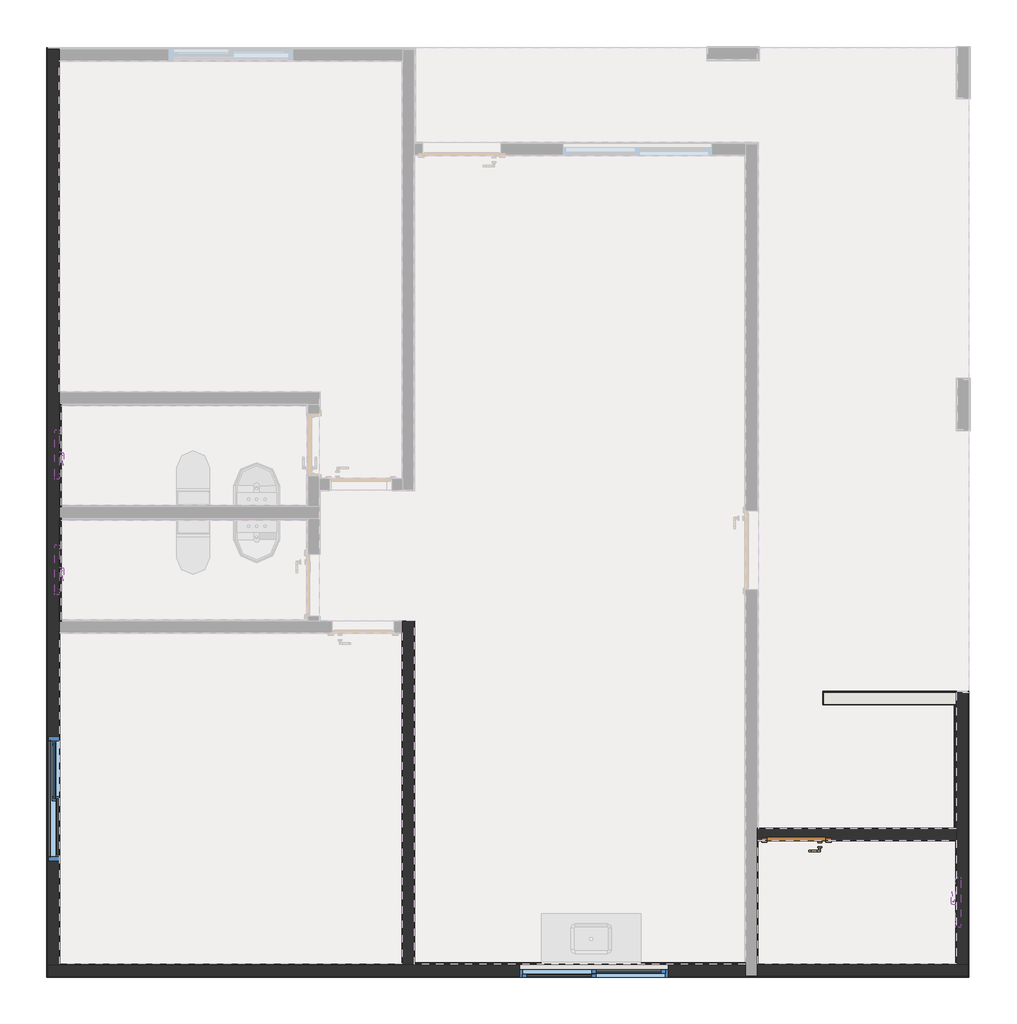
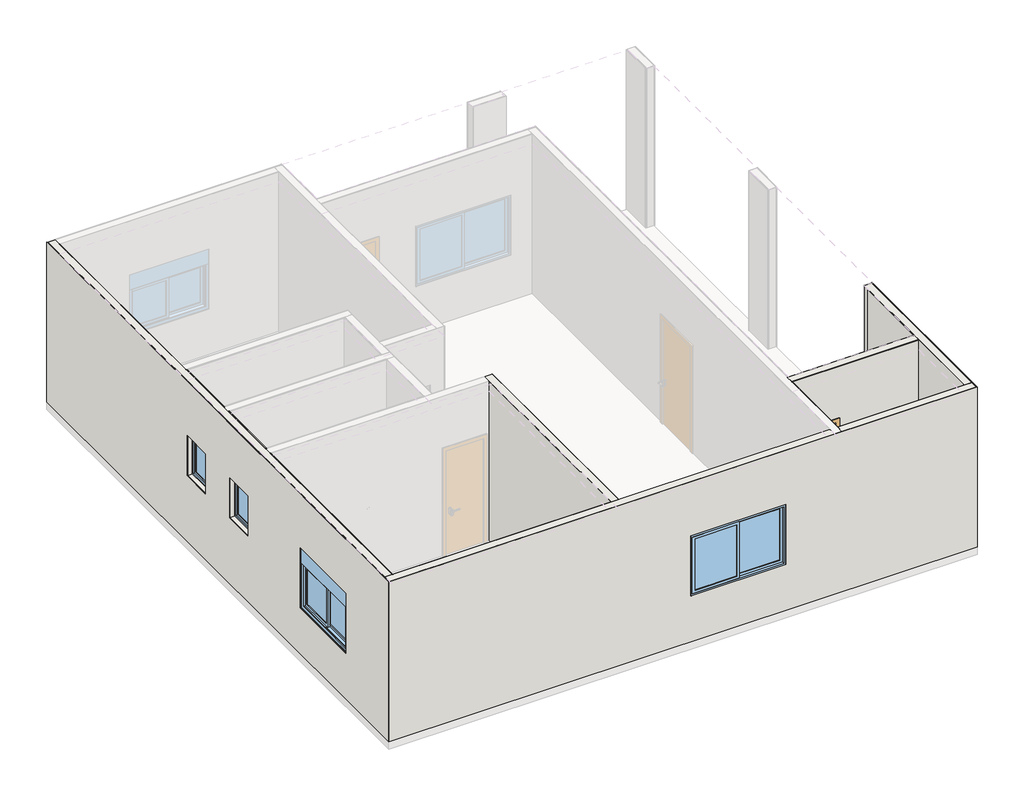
# One storey, part 1 of 3: 27 walls, 5 windows, 1 door.
"""IFC4 building model written with IfcOpenShell, lengths in millimetres."""

from ifc_helpers import new_model, si_unit, frame, origin, origin_with_axes, place, context, project, spatial, polyline, outline, extrude, faceted_brep, transform, mapped, element, save
from components import porta_de_madeira_interna_70_x_210_porta_de_madeira_interna_a3714ee7, window_150x120_d34a449e, window_180x120_4d49b7f3, window_60x80_d31b0025, window_60x80_c8c25e1d

model = new_model("IFC4")

# Units and contexts
model_context = context("Model", 3, world=origin())
ifc_project = project(units=[si_unit("LENGTHUNIT", "METRE", prefix="MILLI")], contexts=[model_context])

# Site, building, storey
site = spatial("IfcSite", under=ifc_project)
building = spatial("IfcBuilding", under=site)
storey = spatial("IfcBuildingStorey", under=building, Name="Térreo", Elevation=0.0)

# Door
placement = place(None, origin())
porta_de_madeira_interna_70_x_210_porta_de_madeira_interna_shape = porta_de_madeira_interna_70_x_210_porta_de_madeira_interna_a3714ee7(model_context)
element("IfcDoor", 1, ObjectType="Porta de Madeira Interna 70 x 210 : Porta de Madeira Interna 70 x 210", at=placement, inside=storey, context=model_context, shape_type="MappedRepresentation", body=[
    mapped(porta_de_madeira_interna_70_x_210_porta_de_madeira_interna_shape, transform((40760.9970535, 5681.8245833, 0.0), x_axis=(-1.0, 0.0, 0.0), y_axis=(0.0, -1.0, 0.0), z_axis=(0.0, 0.0, 1.0))),
])

# Walls
element("IfcWall", 2, ObjectType="Alvenaria Estrutural", at=placement, inside=storey, context=model_context, shape_type="Brep", body=[
    faceted_brep([(40145.9970535, 4187.9995833, 0.0), (36151.9970535, 4187.9995833, 0.0), (36145.9970535, 4187.9995833, 0.0), (36005.9970535, 4187.9995833, 0.0), (31871.9970535, 4187.9995833, 0.0), (31865.9970535, 4187.9995833, 0.0), (31725.9970535, 4187.9995833, 0.0), (31725.9970535, 4187.9995833, 3200.0), (31865.9970535, 4187.9995833, 3200.0), (31871.9970535, 4187.9995833, 3200.0), (36005.9970535, 4187.9995833, 3200.0), (36145.9970535, 4187.9995833, 3200.0), (36151.9970535, 4187.9995833, 3200.0), (40139.9970535, 4187.9995833, 3200.0), (40145.9970535, 4187.9995833, 3200.0), (40145.9970535, 4187.9995833, 3000.0), (40145.9970535, 4187.9995833, 10.0), (37415.9970535, 4187.9995833, 920.0), (39215.9970535, 4187.9995833, 920.0), (39215.9970535, 4187.9995833, 2120.0), (37415.9970535, 4187.9995833, 2120.0), (40145.9970535, 4047.9995833, 0.0), (40145.9970535, 4047.9995833, 3200.0), (31725.9970535, 4047.9995833, 3200.0), (31725.9970535, 4047.9995833, 0.0), (37415.9970535, 4047.9995833, 920.0), (37415.9970535, 4047.9995833, 2120.0), (39215.9970535, 4047.9995833, 2120.0), (39215.9970535, 4047.9995833, 920.0)], [[[0, 1, 2, 3, 4, 5, 6, 7, 8, 9, 10, 11, 12, 13, 14, 15, 16], [17, 18, 19, 20]], [[21, 22, 23, 24], [25, 26, 27, 28]], [[1, 0, 21, 24, 6, 5, 4, 3, 2]], [[8, 7, 23, 22, 14, 13, 12, 11, 10, 9]], [[15, 14, 22, 21, 0, 16]], [[7, 6, 24, 23]], [[17, 20, 26, 25]], [[20, 19, 27, 26]], [[19, 18, 28, 27]], [[18, 17, 25, 28]]]),
])
element("IfcWall", 3, ObjectType="Alvenaria Estrutural", at=placement, inside=storey, context=model_context, shape_type="Brep", body=[
    faceted_brep([(31865.9970535, 4187.9995833, 0.0), (31865.9970535, 4193.9995833, 0.0), (31865.9970535, 8181.9995833, 0.0), (31865.9970535, 8187.9995833, 0.0), (31865.9970535, 8327.9995833, 0.0), (31865.9970535, 8347.9995833, 0.0), (31865.9970535, 9547.9995833, 0.0), (31865.9970535, 9567.9995833, 0.0), (31865.9970535, 9707.9995833, 0.0), (31865.9970535, 9727.9995833, 0.0), (31865.9970535, 10947.9995833, 0.0), (31865.9970535, 11087.9995833, 0.0), (31865.9970535, 11093.9995833, 0.0), (31865.9970535, 15081.9995833, 0.0), (31865.9970535, 15087.9995833, 0.0), (31865.9970535, 15227.9995833, 0.0), (31865.9970535, 15227.9995833, 3200.0), (31865.9970535, 15087.9995833, 3200.0), (31865.9970535, 15081.9995833, 3200.0), (31865.9970535, 11093.9995833, 3200.0), (31865.9970535, 11087.9995833, 3200.0), (31865.9970535, 10947.9995833, 3200.0), (31865.9970535, 9727.9995833, 3200.0), (31865.9970535, 9707.9995833, 3200.0), (31865.9970535, 9567.9995833, 3200.0), (31865.9970535, 9547.9995833, 3200.0), (31865.9970535, 8347.9995833, 3200.0), (31865.9970535, 8327.9995833, 3200.0), (31865.9970535, 8187.9995833, 3200.0), (31865.9970535, 8181.9995833, 3200.0), (31865.9970535, 4193.9995833, 3200.0), (31865.9970535, 4187.9995833, 3200.0), (31865.9970535, 5437.9995833, 920.0), (31865.9970535, 5437.9995833, 2120.0), (31865.9970535, 6937.9995833, 2120.0), (31865.9970535, 6937.9995833, 920.0), (31865.9970535, 8647.9995833, 1320.0), (31865.9970535, 8647.9995833, 2120.0), (31865.9970535, 9247.9995833, 2120.0), (31865.9970535, 9247.9995833, 1320.0), (31865.9970535, 10037.9995833, 1320.0), (31865.9970535, 10037.9995833, 2120.0), (31865.9970535, 10637.9995833, 2120.0), (31865.9970535, 10637.9995833, 1320.0), (31725.9970535, 4187.9995833, 0.0), (31725.9970535, 4187.9995833, 3200.0), (31725.9970535, 15227.9995833, 3200.0), (31725.9970535, 15227.9995833, 0.0), (31725.9970535, 5437.9995833, 920.0), (31725.9970535, 6937.9995833, 920.0), (31725.9970535, 6937.9995833, 2120.0), (31725.9970535, 5437.9995833, 2120.0), (31725.9970535, 8647.9995833, 1320.0), (31725.9970535, 9247.9995833, 1320.0), (31725.9970535, 9247.9995833, 2120.0), (31725.9970535, 8647.9995833, 2120.0), (31725.9970535, 10037.9995833, 1320.0), (31725.9970535, 10637.9995833, 1320.0), (31725.9970535, 10637.9995833, 2120.0), (31725.9970535, 10037.9995833, 2120.0)], [[[0, 1, 2, 3, 4, 5, 6, 7, 8, 9, 10, 11, 12, 13, 14, 15, 16, 17, 18, 19, 20, 21, 22, 23, 24, 25, 26, 27, 28, 29, 30, 31], [32, 33, 34, 35], [36, 37, 38, 39], [40, 41, 42, 43]], [[44, 45, 46, 47], [48, 49, 50, 51], [52, 53, 54, 55], [56, 57, 58, 59]], [[1, 0, 44, 47, 15, 14, 13, 12, 11, 10, 9, 8, 7, 6, 5, 4, 3, 2]], [[17, 16, 46, 45, 31, 30, 29, 28, 27, 26, 25, 24, 23, 22, 21, 20, 19, 18]], [[0, 31, 45, 44]], [[16, 15, 47, 46]], [[41, 40, 56, 59]], [[42, 41, 59, 58]], [[43, 42, 58, 57]], [[40, 43, 57, 56]], [[37, 36, 52, 55]], [[38, 37, 55, 54]], [[39, 38, 54, 53]], [[36, 39, 53, 52]], [[33, 32, 48, 51]], [[34, 33, 51, 50]], [[35, 34, 50, 49]], [[32, 35, 49, 48]]]),
])
element("IfcWall", 4, ObjectType="Alvenaria Estrutural", at=placement, inside=storey, context=model_context, shape_type="Brep", body=[
    faceted_brep([(36145.9970535, 4187.9995833, 0.0), (36145.9970535, 8327.9995833, 0.0), (36145.9970535, 8327.9995833, 3200.0), (36145.9970535, 4187.9995833, 3200.0), (36005.9970535, 4187.9995833, 0.0), (36005.9970535, 4187.9995833, 3200.0), (36005.9970535, 4193.9995833, 3200.0), (36005.9970535, 8181.9995833, 3200.0), (36005.9970535, 8187.9995833, 3200.0), (36005.9970535, 8327.9995833, 3200.0), (36005.9970535, 8327.9995833, 0.0), (36005.9970535, 8187.9995833, 0.0), (36005.9970535, 8181.9995833, 0.0), (36005.9970535, 4193.9995833, 0.0)], [[[0, 1, 2, 3]], [[4, 5, 6, 7, 8, 9, 10, 11, 12, 13]], [[1, 0, 4, 13, 12, 11, 10]], [[3, 2, 9, 8, 7, 6, 5]], [[0, 3, 5, 4]], [[2, 1, 10, 9]]]),
])
element("IfcWall", 5, ObjectType="Alvenaria Estrutural", at=placement, inside=storey, context=model_context, shape_type="Brep", body=[
    faceted_brep([(40285.9970535, 4047.9995833, 0.0), (42825.9970535, 4047.9995833, 0.0), (42825.9970535, 4047.9995833, 3200.0), (40285.9970535, 4047.9995833, 3200.0), (40285.9970535, 4187.9995833, 0.0), (40285.9970535, 4187.9995833, 3200.0), (40291.9970535, 4187.9995833, 3200.0), (42679.9970535, 4187.9995833, 3200.0), (42685.9970535, 4187.9995833, 3200.0), (42825.9970535, 4187.9995833, 3200.0), (42825.9970535, 4187.9995833, 0.0), (42685.9970535, 4187.9995833, 0.0), (42679.9970535, 4187.9995833, 0.0), (40291.9970535, 4187.9995833, 0.0)], [[[0, 1, 2, 3]], [[4, 5, 6, 7, 8, 9, 10, 11, 12, 13]], [[1, 0, 4, 13, 12, 11, 10]], [[3, 2, 9, 8, 7, 6, 5]], [[0, 3, 5, 4]], [[2, 1, 10, 9]]]),
])
element("IfcWall", 6, ObjectType="Alvenaria Estrutural", at=placement, inside=storey, context=model_context, shape_type="Brep", body=[
    faceted_brep([(42825.9970535, 4187.9995833, 0.0), (42825.9970535, 7467.9995833, 0.0), (42825.9970535, 7467.9995833, 1200.0), (42825.9970535, 7467.9995833, 3200.0), (42825.9970535, 4187.9995833, 3200.0), (42825.9970535, 4187.9995833, 1200.0), (42825.9970535, 5237.9995833, 1320.0), (42825.9970535, 4637.9995833, 1320.0), (42825.9970535, 4637.9995833, 2120.0), (42825.9970535, 5237.9995833, 2120.0), (42685.9970535, 4187.9995833, 0.0), (42685.9970535, 4193.9995833, 0.0), (42685.9970535, 5681.9995833, 0.0), (42685.9970535, 5687.9995833, 0.0), (42685.9970535, 5827.9995833, 0.0), (42685.9970535, 5833.9995833, 0.0), (42685.9970535, 7327.9995833, 0.0), (42685.9970535, 7467.9995833, 0.0), (42685.9970535, 7467.9995833, 1200.0), (42685.9970535, 7467.9995833, 3200.0), (42685.9970535, 4187.9995833, 3200.0), (42685.9970535, 4187.9995833, 1200.0), (42685.9970535, 4193.9995833, 3200.0), (42685.9970535, 5681.9995833, 3200.0), (42685.9970535, 5687.9995833, 3200.0), (42685.9970535, 5827.9995833, 3200.0), (42685.9970535, 5833.9995833, 3200.0), (42685.9970535, 7327.9995833, 3200.0), (42685.9970535, 4637.9995833, 1320.0), (42685.9970535, 5237.9995833, 1320.0), (42685.9970535, 5237.9995833, 2120.0), (42685.9970535, 4637.9995833, 2120.0)], [[[0, 1, 2, 3, 4, 5], [6, 7, 8, 9]], [[1, 0, 10, 11, 12, 13, 14, 15, 16, 17]], [[2, 1, 17, 18, 19, 3]], [[0, 5, 4, 20, 21, 10]], [[10, 21, 20, 22, 23, 24, 25, 26, 27, 19, 18, 17, 16, 15, 14, 13, 12, 11], [28, 29, 30, 31]], [[7, 6, 29, 28]], [[8, 7, 28, 31]], [[9, 8, 31, 30]], [[6, 9, 30, 29]], [[4, 3, 19, 27, 26, 25, 24, 23, 22, 20]]]),
])
element("IfcWall", 7, ObjectType="Alvenaria Estrutural", at=placement, inside=storey, context=model_context, shape_type="Brep", body=[
    faceted_brep([(42685.9970535, 5827.9995833, 0.0), (42665.9970535, 5827.9995833, 0.0), (40285.9970535, 5827.9995833, 0.0), (40285.9970535, 5827.9995833, 3200.0), (42665.9970535, 5827.9995833, 3200.0), (42685.9970535, 5827.9995833, 3200.0), (42685.9970535, 5687.9995833, 0.0), (42685.9970535, 5687.9995833, 3200.0), (42679.9970535, 5687.9995833, 3200.0), (40291.9970535, 5687.9995833, 3200.0), (40285.9970535, 5687.9995833, 3200.0), (40285.9970535, 5687.9995833, 0.0), (40291.9970535, 5687.9995833, 0.0), (42679.9970535, 5687.9995833, 0.0)], [[[0, 1, 2, 3, 4, 5]], [[6, 7, 8, 9, 10, 11, 12, 13]], [[1, 0, 6, 13, 12, 11, 2]], [[4, 3, 10, 9, 8, 7, 5]], [[0, 5, 7, 6]], [[3, 2, 11, 10]]]),
])
element("IfcWall", 8, ObjectType="Alvenaria Estrutural", at=placement, inside=storey, context=model_context, shape_type="Brep", body=[
    faceted_brep([(42685.9970535, 7467.9995833, 0.0), (41091.9970535, 7467.9995833, 0.0), (41091.9970535, 7467.9995833, 1200.0), (42685.9970535, 7467.9995833, 1200.0), (42685.9970535, 7327.9995833, 0.0), (42685.9970535, 7327.9995833, 1200.0), (41091.9970535, 7327.9995833, 1200.0), (41091.9970535, 7327.9995833, 0.0), (42665.9970535, 7327.9995833, 0.0)], [[[0, 1, 2, 3]], [[4, 5, 6, 7, 8]], [[1, 0, 4, 8, 7]], [[2, 1, 7, 6]], [[3, 2, 6, 5]], [[0, 3, 5, 4]]]),
])
element("IfcWall", 9, ObjectType="Azulejo", at=placement, inside=storey, context=model_context, shape_type="SweptSolid", body=[
    extrude(outline(polyline([(9567.9995833, 0.0), (8327.9995833, 0.0), (8327.9995833, 3200.0), (9567.9995833, 3200.0), (9567.9995833, 0.0)]), holes=[polyline([(8647.9995833, 2120.0), (8647.9995833, 1320.0), (9247.9995833, 1320.0), (9247.9995833, 2120.0), (8647.9995833, 2120.0)])]), frame((31875.9970535, 0.0, 0.0), z_axis=(1.0, 0.0, 0.0), x_axis=(0.0, 1.0, 0.0)), (0.0, 0.0, 1.0), 10.0),
    extrude(outline(polyline([(9567.9995833, 0.0), (8327.9995833, 0.0), (8327.9995833, 3200.0), (9567.9995833, 3200.0), (9567.9995833, 0.0)]), holes=[polyline([(8647.9995833, 1320.0), (9247.9995833, 1320.0), (9247.9995833, 2120.0), (8647.9995833, 2120.0), (8647.9995833, 1320.0)])]), frame((31865.9970535, 0.0, 0.0), z_axis=(1.0, 0.0, 0.0), x_axis=(0.0, 1.0, 0.0)), (0.0, 0.0, 1.0), 10.0),
])
element("IfcWall", 10, ObjectType="Azulejo", at=placement, inside=storey, context=model_context, shape_type="SolidModel", body=[
    faceted_brep([(31885.9970535, 10927.9995833, 0.0), (31885.9970535, 9707.9995833, 0.0), (31875.9970535, 9707.9995833, 0.0), (31875.9970535, 10937.9995833, 0.0), (31885.9970535, 10937.9995833, 0.0), (31875.9970535, 9707.9995833, 3200.0), (31885.9970535, 9707.9995833, 3200.0), (31885.9970535, 10927.9995833, 3200.0), (31885.9970535, 10937.9995833, 3200.0), (31875.9970535, 10937.9995833, 3200.0), (31885.9970535, 10037.9995833, 2120.0), (31885.9970535, 10037.9995833, 1320.0), (31875.9970535, 10037.9995833, 1320.0), (31875.9970535, 10037.9995833, 2120.0), (31875.9970535, 10637.9995833, 2120.0), (31885.9970535, 10637.9995833, 2120.0), (31875.9970535, 10637.9995833, 1320.0), (31885.9970535, 10637.9995833, 1320.0)], [[[0, 1, 2, 3, 4]], [[5, 6, 7, 8, 9]], [[2, 1, 6, 5]], [[10, 11, 12, 13]], [[10, 13, 14, 15]], [[15, 14, 16, 17]], [[12, 11, 17, 16]], [[2, 5, 9, 3], [13, 12, 16, 14]], [[1, 0, 4, 8, 7, 6], [11, 10, 15, 17]], [[4, 3, 9, 8]]]),
    extrude(outline(polyline([(10947.9995833, 0.0), (9707.9995833, 0.0), (9707.9995833, 3200.0), (10947.9995833, 3200.0), (10947.9995833, 0.0)]), holes=[polyline([(10037.9995833, 1320.0), (10637.9995833, 1320.0), (10637.9995833, 2120.0), (10037.9995833, 2120.0), (10037.9995833, 1320.0)])]), frame((31865.9970535, 0.0, 0.0), z_axis=(1.0, 0.0, 0.0), x_axis=(0.0, 1.0, 0.0)), (0.0, 0.0, 1.0), 10.0),
])
element("IfcWall", 11, ObjectType="Azulejo", at=placement, inside=storey, context=model_context, shape_type="Brep", body=[
    faceted_brep([(42675.9970535, 5827.9995833, 0.0), (42665.9970535, 5827.9995833, 0.0), (42665.9970535, 7321.9995833, 0.0), (42675.9970535, 7321.9995833, 0.0), (42675.9970535, 5827.9995833, 1200.0), (42675.9970535, 5827.9995833, 3200.0), (42665.9970535, 5827.9995833, 3200.0), (42665.9970535, 5827.9995833, 1200.0), (42665.9970535, 7327.9995833, 3200.0), (42665.9970535, 7327.9995833, 1200.0), (42665.9970535, 7321.9995833, 1200.0), (42675.9970535, 7321.9995833, 1200.0), (42675.9970535, 7327.9995833, 1200.0), (42675.9970535, 7327.9995833, 3200.0)], [[[0, 1, 2, 3]], [[1, 0, 4, 5, 6, 7]], [[2, 1, 7, 6, 8, 9, 10]], [[4, 0, 3, 11, 12, 13, 5]], [[2, 10, 11, 3]], [[9, 12, 11, 10]], [[8, 6, 5, 13]], [[12, 9, 8, 13]]]),
    faceted_brep([(42675.9970535, 7327.9995833, 0.0), (42675.9970535, 5827.9995833, 0.0), (42675.9970535, 5827.9995833, 1200.0), (42675.9970535, 5827.9995833, 3200.0), (42675.9970535, 7327.9995833, 3200.0), (42675.9970535, 7327.9995833, 1200.0), (42685.9970535, 7327.9995833, 0.0), (42685.9970535, 5827.9995833, 0.0), (42685.9970535, 5827.9995833, 1200.0), (42685.9970535, 5827.9995833, 3200.0), (42685.9970535, 7327.9995833, 3200.0), (42685.9970535, 7327.9995833, 1200.0)], [[[0, 1, 2, 3, 4, 5]], [[1, 0, 6, 7]], [[2, 1, 7, 8, 9, 3]], [[0, 5, 4, 10, 11, 6]], [[6, 11, 10, 9, 8, 7]], [[4, 3, 9, 10]]]),
])
element("IfcWall", 12, ObjectType="Azulejo", at=placement, inside=storey, context=model_context, shape_type="SweptSolid", body=[
    extrude(outline(polyline([(3000.0, 40145.9970535), (3000.0, 36151.9970535), (10.0, 36151.9970535), (10.0, 40145.9970535), (3000.0, 40145.9970535)]), holes=[polyline([(920.0, 37415.9970535), (2120.0, 37415.9970535), (2120.0, 39215.9970535), (920.0, 39215.9970535), (920.0, 37415.9970535)])]), frame((0.0, 4187.9995833, 0.0), z_axis=(0.0, 1.0, 0.0), x_axis=(0.0, 0.0, 1.0)), (0.0, 0.0, 1.0), 10.0),
    extrude(outline(polyline([(3000.0, 40145.9970535), (3000.0, 36151.9970535), (10.0, 36151.9970535), (10.0, 40145.9970535), (3000.0, 40145.9970535)]), holes=[polyline([(920.0, 37415.9970535), (2120.0, 37415.9970535), (2120.0, 39215.9970535), (920.0, 39215.9970535), (920.0, 37415.9970535)])]), frame((0.0, 4197.9995833, 0.0), z_axis=(0.0, 1.0, 0.0), x_axis=(0.0, 0.0, 1.0)), (0.0, 0.0, 1.0), 10.0),
])
element("IfcWall", 13, ObjectType="Gesso Liso + Pintura", at=placement, inside=storey, context=model_context, shape_type="SolidModel", body=[
    faceted_brep([(31865.9970535, 11093.9995833, 0.0), (31865.9970535, 11087.9995833, 0.0), (31864.9970535, 11087.9995833, 0.0), (31864.9970535, 15087.9995833, 0.0), (31865.9970535, 15087.9995833, 0.0), (31865.9970535, 11093.9995833, 3200.0), (31865.9970535, 15087.9995833, 3200.0), (31864.9970535, 15087.9995833, 3200.0), (31864.9970535, 11087.9995833, 3200.0), (31865.9970535, 11087.9995833, 3200.0)], [[[0, 1, 2, 3, 4]], [[5, 6, 7, 8, 9]], [[1, 9, 8, 2]], [[6, 4, 3, 7]], [[3, 2, 8, 7]], [[1, 0, 4, 6, 5, 9]]]),
    extrude(outline(polyline([(31859.9970535, 11087.9995833), (31859.9970535, 15087.9995833), (31864.9970535, 15087.9995833), (31864.9970535, 11087.9995833), (31859.9970535, 11087.9995833)])), origin_with_axes(), (0.0, 0.0, 1.0), 3200.0),
])
element("IfcWall", 14, ObjectType="Gesso Liso + Pintura", at=placement, inside=storey, context=model_context, shape_type="Brep", body=[
    faceted_brep([(36145.9970535, 8327.9995833, 0.0), (36145.9970535, 8328.9995833, 0.0), (36146.9970535, 8328.9995833, 0.0), (36146.9970535, 4187.9995833, 0.0), (36145.9970535, 4187.9995833, 0.0), (36145.9970535, 8327.9995833, 3200.0), (36145.9970535, 4187.9995833, 3200.0), (36146.9970535, 4187.9995833, 3200.0), (36146.9970535, 8328.9995833, 3200.0), (36145.9970535, 8328.9995833, 3200.0)], [[[0, 1, 2, 3, 4]], [[5, 6, 7, 8, 9]], [[6, 4, 3, 7]], [[3, 2, 8, 7]], [[4, 6, 5, 9, 1, 0]], [[1, 9, 8, 2]]]),
    faceted_brep([(36146.9970535, 8333.9995833, 0.0), (36146.9970535, 4187.9995833, 0.0), (36146.9970535, 4187.9995833, 3200.0), (36146.9970535, 8333.9995833, 3200.0), (36151.9970535, 4187.9995833, 0.0), (36151.9970535, 8333.9995833, 0.0), (36151.9970535, 8333.9995833, 3200.0), (36151.9970535, 4187.9995833, 3200.0), (36151.9970535, 4187.9995833, 3000.0), (36151.9970535, 4187.9995833, 10.0)], [[[0, 1, 2, 3]], [[4, 5, 6, 7, 8, 9]], [[5, 4, 1, 0]], [[7, 6, 3, 2]], [[8, 7, 2, 1, 4, 9]], [[6, 5, 0, 3]]]),
])
element("IfcWall", 15, ObjectType="Gesso Liso + Pintura", at=placement, inside=storey, context=model_context, shape_type="SweptSolid", body=[
    extrude(outline(polyline([(8187.9995833, 0.0), (4187.9995833, 0.0), (4187.9995833, 3200.0), (8187.9995833, 3200.0), (8187.9995833, 0.0)]), holes=[polyline([(5437.9995833, 920.0), (6937.9995833, 920.0), (6937.9995833, 2120.0), (5437.9995833, 2120.0), (5437.9995833, 920.0)])]), frame((31865.9970535, 0.0, 0.0), z_axis=(1.0, 0.0, 0.0), x_axis=(0.0, 1.0, 0.0)), (0.0, 0.0, 1.0), 1.0),
    extrude(outline(polyline([(8187.9995833, 0.0), (4187.9995833, 0.0), (4187.9995833, 3200.0), (8187.9995833, 3200.0), (8187.9995833, 0.0)]), holes=[polyline([(5437.9995833, 2120.0), (5437.9995833, 920.0), (6937.9995833, 920.0), (6937.9995833, 2120.0), (5437.9995833, 2120.0)])]), frame((31866.9970535, 0.0, 0.0), z_axis=(1.0, 0.0, 0.0), x_axis=(0.0, 1.0, 0.0)), (0.0, 0.0, 1.0), 5.0),
])
element("IfcWall", 16, ObjectType="Gesso Liso + Pintura", at=placement, inside=storey, context=model_context, shape_type="SolidModel", body=[
    extrude(outline(polyline([(36005.9970535, 4187.9995833), (31865.9970535, 4187.9995833), (31865.9970535, 4188.9995833), (36005.9970535, 4188.9995833), (36005.9970535, 4187.9995833)])), origin_with_axes(), (0.0, 0.0, 1.0), 3200.0),
    faceted_brep([(31865.9970535, 4188.9995833, 0.0), (36005.9970535, 4188.9995833, 0.0), (36005.9970535, 4188.9995833, 3200.0), (31865.9970535, 4188.9995833, 3200.0), (31865.9970535, 4193.9995833, 0.0), (31865.9970535, 4193.9995833, 3200.0), (35999.9970535, 4193.9995833, 3200.0), (36005.9970535, 4193.9995833, 3200.0), (36005.9970535, 4193.9995833, 0.0), (35999.9970535, 4193.9995833, 0.0)], [[[0, 1, 2, 3]], [[4, 5, 6, 7, 8, 9]], [[9, 8, 1, 0, 4]], [[6, 5, 3, 2, 7]], [[5, 4, 0, 3]], [[8, 7, 2, 1]]]),
])
element("IfcWall", 17, ObjectType="Gesso Liso + Pintura", at=placement, inside=storey, context=model_context, shape_type="SweptSolid", body=[
    extrude(outline(polyline([(36005.9970535, 8187.9995833), (36005.9970535, 4193.9995833), (36004.9970535, 4193.9995833), (36004.9970535, 8187.9995833), (36005.9970535, 8187.9995833)])), origin_with_axes(), (0.0, 0.0, 1.0), 3200.0),
    extrude(outline(polyline([(35999.9970535, 4193.9995833), (35999.9970535, 8187.9995833), (36004.9970535, 8187.9995833), (36004.9970535, 4193.9995833), (35999.9970535, 4193.9995833)])), origin_with_axes(), (0.0, 0.0, 1.0), 3200.0),
])
element("IfcWall", 18, ObjectType="Gesso Liso + Pintura", at=placement, inside=storey, context=model_context, shape_type="SolidModel", body=[
    extrude(outline(polyline([(42685.9970535, 5827.9995833), (40285.9970535, 5827.9995833), (40285.9970535, 5828.9995833), (42685.9970535, 5828.9995833), (42685.9970535, 5827.9995833)])), origin_with_axes(), (0.0, 0.0, 1.0), 3200.0),
    faceted_brep([(40285.9970535, 5828.9995833, 0.0), (42685.9970535, 5828.9995833, 0.0), (42685.9970535, 5828.9995833, 3200.0), (40285.9970535, 5828.9995833, 3200.0), (42685.9970535, 5833.9995833, 0.0), (40301.9970535, 5833.9995833, 0.0), (40285.9970535, 5833.9995833, 0.0), (40285.9970535, 5833.9995833, 3200.0), (40301.9970535, 5833.9995833, 3200.0), (42685.9970535, 5833.9995833, 3200.0)], [[[0, 1, 2, 3]], [[4, 5, 6, 7, 8, 9]], [[5, 4, 1, 0, 6]], [[8, 7, 3, 2, 9]], [[7, 6, 0, 3]], [[4, 9, 2, 1]]]),
])
element("IfcWall", 19, ObjectType="Gesso Liso + Pintura", at=placement, inside=storey, context=model_context, shape_type="SolidModel", body=[
    extrude(outline(polyline([(40285.9970535, 4187.9995833), (40285.9970535, 5687.9995833), (40286.9970535, 5687.9995833), (40286.9970535, 4187.9995833), (40285.9970535, 4187.9995833)])), origin_with_axes(), (0.0, 0.0, 1.0), 3200.0),
    faceted_brep([(40286.9970535, 5687.9995833, 0.0), (40286.9970535, 4187.9995833, 0.0), (40286.9970535, 4187.9995833, 3200.0), (40286.9970535, 5687.9995833, 3200.0), (40291.9970535, 5687.9995833, 0.0), (40291.9970535, 5687.9995833, 3200.0), (40291.9970535, 4193.9995833, 3200.0), (40291.9970535, 4187.9995833, 3200.0), (40291.9970535, 4187.9995833, 0.0), (40291.9970535, 4193.9995833, 0.0)], [[[0, 1, 2, 3]], [[4, 5, 6, 7, 8, 9]], [[9, 8, 1, 0, 4]], [[6, 5, 3, 2, 7]], [[8, 7, 2, 1]], [[5, 4, 0, 3]]]),
])
element("IfcWall", 20, ObjectType="Gesso Liso + Pintura", at=placement, inside=storey, context=model_context, shape_type="SweptSolid", body=[
    extrude(outline(polyline([(42685.9970535, 4187.9995833), (40291.9970535, 4187.9995833), (40291.9970535, 4188.9995833), (42685.9970535, 4188.9995833), (42685.9970535, 4187.9995833)])), origin_with_axes(), (0.0, 0.0, 1.0), 3200.0),
    extrude(outline(polyline([(40291.9970535, 4193.9995833), (42685.9970535, 4193.9995833), (42685.9970535, 4188.9995833), (40291.9970535, 4188.9995833), (40291.9970535, 4193.9995833)])), origin_with_axes(), (0.0, 0.0, 1.0), 3200.0),
])
element("IfcWall", 21, ObjectType="Gesso Liso + Pintura", at=placement, inside=storey, context=model_context, shape_type="SweptSolid", body=[
    extrude(outline(polyline([(5687.9995833, 0.0), (4187.9995833, 0.0), (4187.9995833, 3200.0), (5687.9995833, 3200.0), (5687.9995833, 0.0)]), holes=[polyline([(5237.9995833, 1320.0), (5237.9995833, 2120.0), (4637.9995833, 2120.0), (4637.9995833, 1320.0), (5237.9995833, 1320.0)])]), frame((42684.9970535, 0.0, 0.0), z_axis=(1.0, 0.0, 0.0), x_axis=(0.0, 1.0, 0.0)), (0.0, 0.0, 1.0), 1.0),
    extrude(outline(polyline([(4187.9995833, 0.0), (4187.9995833, 3200.0), (5687.9995833, 3200.0), (5687.9995833, 0.0), (4187.9995833, 0.0)]), holes=[polyline([(5237.9995833, 1320.0), (5237.9995833, 2120.0), (4637.9995833, 2120.0), (4637.9995833, 1320.0), (5237.9995833, 1320.0)])]), frame((42679.9970535, 0.0, 0.0), z_axis=(1.0, 0.0, 0.0), x_axis=(0.0, 1.0, 0.0)), (0.0, 0.0, 1.0), 5.0),
])
element("IfcWall", 22, ObjectType="Gesso Liso + Pintura", at=placement, inside=storey, context=model_context, shape_type="SweptSolid", body=[
    extrude(outline(polyline([(0.0, 41135.9970535), (0.0, 42685.9970535), (3200.0, 42685.9970535), (3200.0, 40285.9970535), (0.0, 40285.9970535), (0.0, 40385.9970535), (2125.0, 40385.9970535), (2125.0, 41135.9970535), (0.0, 41135.9970535)])), frame((0.0, 5686.9995833, 0.0), z_axis=(0.0, 1.0, 0.0), x_axis=(0.0, 0.0, 1.0)), (0.0, 0.0, 1.0), 1.0),
    extrude(outline(polyline([(3200.0, 42685.9970535), (3200.0, 40285.9970535), (0.0, 40285.9970535), (0.0, 40385.9970535), (2125.0, 40385.9970535), (2125.0, 41135.9970535), (0.0, 41135.9970535), (0.0, 42685.9970535), (3200.0, 42685.9970535)])), frame((0.0, 5681.9995833, 0.0), z_axis=(0.0, 1.0, 0.0), x_axis=(0.0, 0.0, 1.0)), (0.0, 0.0, 1.0), 5.0),
])
element("IfcWall", 23, ObjectType="Gesso Liso + Pintura", at=placement, inside=storey, context=model_context, shape_type="SolidModel", body=[
    faceted_brep([(41091.9970535, 7327.9995833, 0.0), (42675.9970535, 7327.9995833, 0.0), (42675.9970535, 7326.9995833, 0.0), (41080.9970535, 7326.9995833, 0.0), (41080.9970535, 7327.9995833, 0.0), (41091.9970535, 7327.9995833, 1200.0), (41080.9970535, 7327.9995833, 1200.0), (41080.9970535, 7326.9995833, 1200.0), (42675.9970535, 7326.9995833, 1200.0), (42675.9970535, 7327.9995833, 1200.0)], [[[0, 1, 2, 3, 4]], [[5, 6, 7, 8, 9]], [[3, 2, 8, 7]], [[4, 6, 5, 9, 1, 0]], [[1, 9, 8, 2]], [[6, 4, 3, 7]]]),
    extrude(outline(polyline([(42675.9970535, 7321.9995833), (41080.9970535, 7321.9995833), (41080.9970535, 7326.9995833), (42675.9970535, 7326.9995833), (42675.9970535, 7321.9995833)])), origin_with_axes(), (0.0, 0.0, 1.0), 1200.0),
])
element("IfcWall", 24, ObjectType="Reboco + Pintura Externa", at=placement, inside=storey, context=model_context, shape_type="SolidModel", body=[
    extrude(outline(polyline([(15243.9995833, 0.0), (4031.9995833, 0.0), (4031.9995833, 3200.0), (15243.9995833, 3200.0), (15243.9995833, 0.0)]), holes=[polyline([(10037.9995833, 1320.0), (10637.9995833, 1320.0), (10637.9995833, 2120.0), (10037.9995833, 2120.0), (10037.9995833, 1320.0)]), polyline([(8647.9995833, 1320.0), (9247.9995833, 1320.0), (9247.9995833, 2120.0), (8647.9995833, 2120.0), (8647.9995833, 1320.0)]), polyline([(5437.9995833, 920.0), (6937.9995833, 920.0), (6937.9995833, 2120.0), (5437.9995833, 2120.0), (5437.9995833, 920.0)])]), frame((31709.9970535, 0.0, 0.0), z_axis=(1.0, 0.0, 0.0), x_axis=(0.0, 1.0, 0.0)), (0.0, 0.0, 1.0), 1.0),
    faceted_brep([(31720.9970535, 15232.9995833, 0.0), (31720.9970535, 4042.9995833, 0.0), (31720.9970535, 4042.9995833, 3200.0), (31720.9970535, 15232.9995833, 3200.0), (31720.9970535, 5437.9995833, 2120.0), (31720.9970535, 5437.9995833, 920.0), (31720.9970535, 6937.9995833, 920.0), (31720.9970535, 6937.9995833, 2120.0), (31720.9970535, 8647.9995833, 2120.0), (31720.9970535, 8647.9995833, 1320.0), (31720.9970535, 9247.9995833, 1320.0), (31720.9970535, 9247.9995833, 2120.0), (31720.9970535, 10037.9995833, 2120.0), (31720.9970535, 10037.9995833, 1320.0), (31720.9970535, 10637.9995833, 1320.0), (31720.9970535, 10637.9995833, 2120.0), (31725.9970535, 4047.9995833, 0.0), (31725.9970535, 4042.9995833, 0.0), (31725.9970535, 15232.9995833, 0.0), (31725.9970535, 15227.9995833, 0.0), (31725.9970535, 4187.9995833, 0.0), (31725.9970535, 15227.9995833, 3200.0), (31725.9970535, 15232.9995833, 3200.0), (31725.9970535, 4042.9995833, 3200.0), (31725.9970535, 4047.9995833, 3200.0), (31725.9970535, 4187.9995833, 3200.0), (31725.9970535, 10037.9995833, 2120.0), (31725.9970535, 10037.9995833, 1320.0), (31725.9970535, 10637.9995833, 2120.0), (31725.9970535, 10637.9995833, 1320.0), (31725.9970535, 8647.9995833, 2120.0), (31725.9970535, 8647.9995833, 1320.0), (31725.9970535, 9247.9995833, 2120.0), (31725.9970535, 9247.9995833, 1320.0), (31725.9970535, 5437.9995833, 2120.0), (31725.9970535, 5437.9995833, 920.0), (31725.9970535, 6937.9995833, 2120.0), (31725.9970535, 6937.9995833, 920.0)], [[[0, 1, 2, 3], [4, 5, 6, 7], [8, 9, 10, 11], [12, 13, 14, 15]], [[16, 17, 1, 0, 18, 19, 20]], [[21, 22, 3, 2, 23, 24, 25]], [[26, 27, 13, 12]], [[28, 26, 12, 15]], [[29, 28, 15, 14]], [[27, 29, 14, 13]], [[30, 31, 9, 8]], [[32, 30, 8, 11]], [[33, 32, 11, 10]], [[31, 33, 10, 9]], [[34, 35, 5, 4]], [[36, 34, 4, 7]], [[37, 36, 7, 6]], [[35, 37, 6, 5]], [[18, 22, 21, 25, 24, 23, 17, 16, 20, 19], [27, 26, 28, 29], [31, 30, 32, 33], [35, 34, 36, 37]], [[17, 23, 2, 1]], [[22, 18, 0, 3]]]),
    extrude(outline(polyline([(15242.9995833, 0.0), (4032.9995833, 0.0), (4032.9995833, 3200.0), (15242.9995833, 3200.0), (15242.9995833, 0.0)]), holes=[polyline([(5437.9995833, 2120.0), (5437.9995833, 920.0), (6937.9995833, 920.0), (6937.9995833, 2120.0), (5437.9995833, 2120.0)]), polyline([(8647.9995833, 2120.0), (8647.9995833, 1320.0), (9247.9995833, 1320.0), (9247.9995833, 2120.0), (8647.9995833, 2120.0)]), polyline([(10037.9995833, 2120.0), (10037.9995833, 1320.0), (10637.9995833, 1320.0), (10637.9995833, 2120.0), (10037.9995833, 2120.0)])]), frame((31710.9970535, 0.0, 0.0), z_axis=(1.0, 0.0, 0.0), x_axis=(0.0, 1.0, 0.0)), (0.0, 0.0, 1.0), 10.0),
])
element("IfcWall", 25, ObjectType="Reboco + Pintura Externa", at=placement, inside=storey, context=model_context, shape_type="SolidModel", body=[
    extrude(outline(polyline([(0.0, 31710.9970535), (0.0, 42841.9970535), (3200.0, 42841.9970535), (3200.0, 31710.9970535), (0.0, 31710.9970535)]), holes=[polyline([(920.0, 37415.9970535), (2120.0, 37415.9970535), (2120.0, 39215.9970535), (920.0, 39215.9970535), (920.0, 37415.9970535)])]), frame((0.0, 4031.9995833, 0.0), z_axis=(0.0, 1.0, 0.0), x_axis=(0.0, 0.0, 1.0)), (0.0, 0.0, 1.0), 1.0),
    faceted_brep([(31725.9970535, 4042.9995833, 0.0), (42830.9970535, 4042.9995833, 0.0), (42830.9970535, 4042.9995833, 3200.0), (31725.9970535, 4042.9995833, 3200.0), (37415.9970535, 4042.9995833, 920.0), (37415.9970535, 4042.9995833, 2120.0), (39215.9970535, 4042.9995833, 2120.0), (39215.9970535, 4042.9995833, 920.0), (42825.9970535, 4047.9995833, 0.0), (42830.9970535, 4047.9995833, 0.0), (31725.9970535, 4047.9995833, 0.0), (42825.9970535, 4047.9995833, 3200.0), (31725.9970535, 4047.9995833, 3200.0), (42830.9970535, 4047.9995833, 3200.0), (37415.9970535, 4047.9995833, 920.0), (37415.9970535, 4047.9995833, 2120.0), (39215.9970535, 4047.9995833, 2120.0), (39215.9970535, 4047.9995833, 920.0)], [[[0, 1, 2, 3], [4, 5, 6, 7]], [[8, 9, 1, 0, 10]], [[11, 12, 3, 2, 13]], [[12, 10, 0, 3]], [[14, 15, 5, 4]], [[15, 16, 6, 5]], [[16, 17, 7, 6]], [[17, 14, 4, 7]], [[10, 12, 11, 13, 9, 8], [14, 17, 16, 15]], [[9, 13, 2, 1]]]),
    extrude(outline(polyline([(0.0, 31720.9970535), (0.0, 42840.9970535), (3200.0, 42840.9970535), (3200.0, 31720.9970535), (0.0, 31720.9970535)]), holes=[polyline([(920.0, 37415.9970535), (2120.0, 37415.9970535), (2120.0, 39215.9970535), (920.0, 39215.9970535), (920.0, 37415.9970535)])]), frame((0.0, 4032.9995833, 0.0), z_axis=(0.0, 1.0, 0.0), x_axis=(0.0, 0.0, 1.0)), (0.0, 0.0, 1.0), 10.0),
])
element("IfcWall", 26, ObjectType="Reboco + Pintura Externa", at=placement, inside=storey, context=model_context, shape_type="SolidModel", body=[
    extrude(outline(polyline([(7483.9995833, 0.0), (4032.9995833, 0.0), (4032.9995833, 3200.0), (7483.9995833, 3200.0), (7483.9995833, 0.0)]), holes=[polyline([(5237.9995833, 1320.0), (5237.9995833, 2120.0), (4637.9995833, 2120.0), (4637.9995833, 1320.0), (5237.9995833, 1320.0)])]), frame((42840.9970535, 0.0, 0.0), z_axis=(1.0, 0.0, 0.0), x_axis=(0.0, 1.0, 0.0)), (0.0, 0.0, 1.0), 1.0),
    faceted_brep([(42830.9970535, 4047.9995833, 0.0), (42830.9970535, 7472.9995833, 0.0), (42830.9970535, 7472.9995833, 3200.0), (42830.9970535, 4047.9995833, 3200.0), (42830.9970535, 5237.9995833, 2120.0), (42830.9970535, 5237.9995833, 1320.0), (42830.9970535, 4637.9995833, 1320.0), (42830.9970535, 4637.9995833, 2120.0), (42825.9970535, 7467.9995833, 0.0), (42825.9970535, 7472.9995833, 0.0), (42825.9970535, 4047.9995833, 0.0), (42825.9970535, 4187.9995833, 0.0), (42825.9970535, 4187.9995833, 3200.0), (42825.9970535, 4047.9995833, 3200.0), (42825.9970535, 7472.9995833, 3200.0), (42825.9970535, 7467.9995833, 3200.0), (42825.9970535, 5237.9995833, 2120.0), (42825.9970535, 5237.9995833, 1320.0), (42825.9970535, 4637.9995833, 2120.0), (42825.9970535, 4637.9995833, 1320.0)], [[[0, 1, 2, 3], [4, 5, 6, 7]], [[8, 9, 1, 0, 10, 11]], [[12, 13, 3, 2, 14, 15]], [[13, 10, 0, 3]], [[16, 17, 5, 4]], [[18, 16, 4, 7]], [[19, 18, 7, 6]], [[17, 19, 6, 5]], [[10, 13, 12, 15, 14, 9, 8, 11], [17, 16, 18, 19]], [[9, 14, 2, 1]]]),
    extrude(outline(polyline([(7482.9995833, 0.0), (4042.9995833, 0.0), (4042.9995833, 3200.0), (7482.9995833, 3200.0), (7482.9995833, 0.0)]), holes=[polyline([(5237.9995833, 1320.0), (5237.9995833, 2120.0), (4637.9995833, 2120.0), (4637.9995833, 1320.0), (5237.9995833, 1320.0)])]), frame((42830.9970535, 0.0, 0.0), z_axis=(1.0, 0.0, 0.0), x_axis=(0.0, 1.0, 0.0)), (0.0, 0.0, 1.0), 10.0),
])
element("IfcWall", 27, ObjectType="Reboco + Pintura Externa", at=placement, inside=storey, context=model_context, shape_type="SweptSolid", body=[
    extrude(outline(polyline([(41091.9970535, 7483.9995833), (42685.9970535, 7483.9995833), (42685.9970535, 7482.9995833), (41091.9970535, 7482.9995833), (41091.9970535, 7483.9995833)])), origin_with_axes(), (0.0, 0.0, 1.0), 1200.0),
    extrude(outline(polyline([(42685.9970535, 7467.9995833), (41091.9970535, 7467.9995833), (41091.9970535, 7472.9995833), (42685.9970535, 7472.9995833), (42685.9970535, 7467.9995833)])), origin_with_axes(), (0.0, 0.0, 1.0), 1200.0),
    extrude(outline(polyline([(42685.9970535, 7482.9995833), (42685.9970535, 7472.9995833), (41091.9970535, 7472.9995833), (41091.9970535, 7482.9995833), (42685.9970535, 7482.9995833)])), origin_with_axes(), (0.0, 0.0, 1.0), 1200.0),
])
element("IfcWall", 28, ObjectType="Reboco + Pintura Externa", at=placement, inside=storey, context=model_context, shape_type="SweptSolid", body=[
    extrude(outline(polyline([(41091.9970535, 7483.9995833), (41091.9970535, 7327.9995833), (41090.9970535, 7327.9995833), (41090.9970535, 7483.9995833), (41091.9970535, 7483.9995833)])), origin_with_axes(), (0.0, 0.0, 1.0), 1200.0),
    extrude(outline(polyline([(41075.9970535, 7321.9995833), (41075.9970535, 7483.9995833), (41080.9970535, 7483.9995833), (41080.9970535, 7321.9995833), (41075.9970535, 7321.9995833)])), origin_with_axes(), (0.0, 0.0, 1.0), 1200.0),
    extrude(outline(polyline([(41080.9970535, 7483.9995833), (41090.9970535, 7483.9995833), (41090.9970535, 7327.9995833), (41080.9970535, 7327.9995833), (41080.9970535, 7483.9995833)])), origin_with_axes(), (0.0, 0.0, 1.0), 1200.0),
])

# Windows
window_150x120_shape = window_150x120_d34a449e(model_context)
element("IfcWindow", 29, ObjectType="Veneziana - 2 Painéis : 150x120", at=placement, inside=storey, context=model_context, shape_type="MappedRepresentation", body=[
    mapped(window_150x120_shape, transform((31795.9970535, 6187.9995833, 270.0), x_axis=(0.0, 1.0, 0.0), y_axis=(-1.0, 0.0, 0.0), z_axis=(0.0, 0.0, 1.0))),
])
window_180x120_shape = window_180x120_4d49b7f3(model_context)
element("IfcWindow", 30, ObjectType="Janela de correr - 2 Painéis : 180x120", at=placement, inside=storey, context=model_context, shape_type="MappedRepresentation", body=[
    mapped(window_180x120_shape, transform((38315.9970535, 4039.9995833, 270.0), x_axis=(1.0, 0.0, 0.0), y_axis=(0.0, 1.0, 0.0), z_axis=(0.0, 0.0, 1.0))),
])
window_60x80_shape = window_60x80_d31b0025(model_context)
element("IfcWindow", 31, ObjectType="Janela Maxim-ar : 60x80", at=placement, inside=storey, context=model_context, shape_type="MappedRepresentation", body=[
    mapped(window_60x80_shape, transform((31795.9970535, 10337.9995833, 670.0), x_axis=(0.0, 1.0, 0.0), y_axis=(-1.0, 0.0, 0.0), z_axis=(0.0, 0.0, 1.0))),
])
element("IfcWindow", 32, ObjectType="Janela Maxim-ar : 60x80", at=placement, inside=storey, context=model_context, shape_type="MappedRepresentation", body=[
    mapped(window_60x80_shape, transform((31795.9970535, 8947.9995833, 670.0), x_axis=(0.0, 1.0, 0.0), y_axis=(-1.0, 0.0, 0.0), z_axis=(0.0, 0.0, 1.0))),
])
window_60x80_2_shape = window_60x80_c8c25e1d(model_context)
element("IfcWindow", 33, ObjectType="Janela Maxim-ar : 60x80", at=placement, inside=storey, context=model_context, shape_type="MappedRepresentation", body=[
    mapped(window_60x80_2_shape, transform((42682.9970535, 4937.9995833, 670.0), x_axis=(0.0, -1.0, 0.0), y_axis=(1.0, 0.0, 0.0), z_axis=(0.0, 0.0, 1.0))),
])

save(model, "model.ifc")
